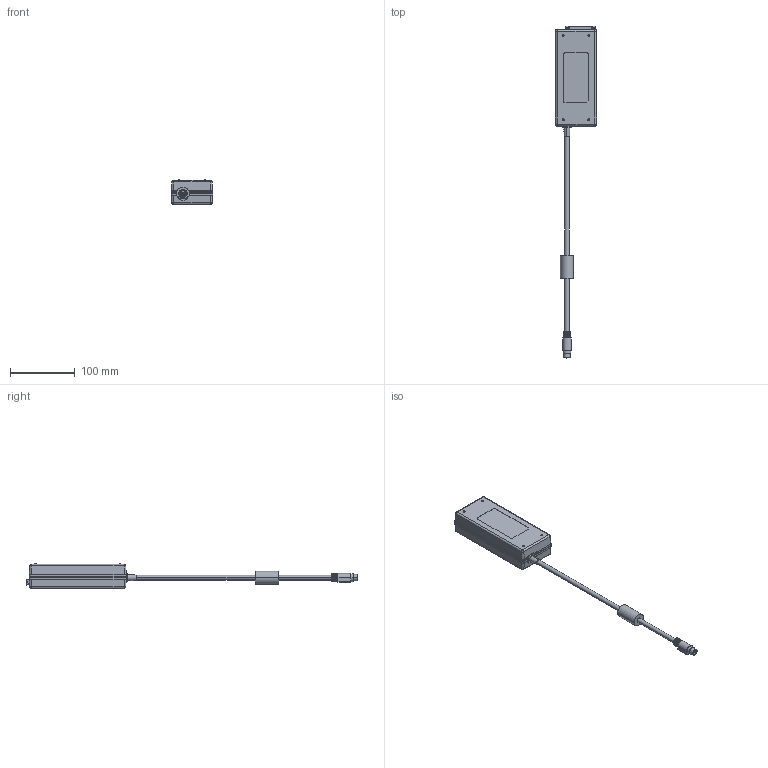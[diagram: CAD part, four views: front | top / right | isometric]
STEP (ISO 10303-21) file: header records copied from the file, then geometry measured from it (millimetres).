
FILE_DESCRIPTION (( 'STEP AP203' ), '1' );
FILE_NAME ('ASSY AHM85 W CASING C1.STEP', '2012-01-12T06:41:10', ( 'XP Power' ), ( 'Hewlett-Packard Company' ), 'SwSTEP 2.0', 'SolidWorks 2011', '' );
FILE_SCHEMA (( 'CONFIG_CONTROL_DESIGN' ));
Length unit declared in the file: millimetre
Products named in the file (8): ASSY AHM85 W CASING C1; CONN C1; ASSY PCB AHM85_2; UL2464 COMMON PLUG WITH MINI-DIN_2; 10009789 REV B_2_1; 10009789 REV B_2; LED LIGHT PIPE(10009913)_2; 10009790 REV B_2
Assembly tree (7 placements, depth 3):
  ASSY AHM85 W CASING C1
    ASSY PCB AHM85_2
      UL2464 COMMON PLUG WITH MINI-DIN_2
    10009790 REV B_2
    CONN C1
    10009789 REV B_2_1
      10009789 REV B_2
      LED LIGHT PIPE(10009913)_2
Bounding box: 63.97 x 512.51 x 38 mm (x, y, z)
Volume: 109339.9 mm3; surface area: 86358.7 mm2
Topology: 6 solids, 6 shells, 854 faces, 2112 edges, 1338 vertices
Faces by surface type: plane 416, cylinder 280, bspline 89, torus 38, cone 27, sphere 4
Entity records: 31729 total; most frequent: CARTESIAN_POINT 11516, ORIENTED_EDGE 4218, DIRECTION 3734, EDGE_CURVE 2109, VERTEX_POINT 1338, AXIS2_PLACEMENT_3D 1247, VECTOR 1240, LINE 1240
